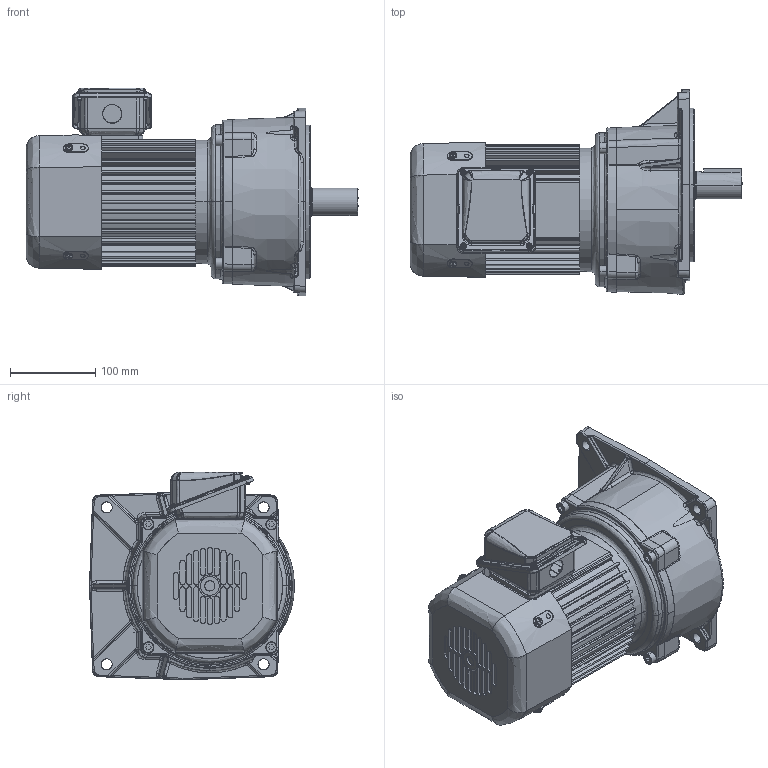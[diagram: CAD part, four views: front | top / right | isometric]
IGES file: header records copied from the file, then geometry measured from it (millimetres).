
Start section: SolidWorks IGES file using analytic representation for surfaces
Global section: file name: \\100.100.100.8\1_共有作業フォルダ\1-5_３Ｄデータ\solidworks\personal-folder\H.Nagayama\SGP1外形075~370\P1(3D)_075~370\igs\TMF2-07-(30~80).IGS; native system: SolidWorks 2018; preprocessor: SolidWorks 2018; author: sigma-giken; date: 200806.151514; units: millimetre
Bounding box: 389 x 240.19 x 243.2 mm (x, y, z)
Surface area: 589322.4 mm2 (no closed solid volume)
Topology: 0 solids, 0 shells, 1592 faces, 19503 edges, 19473 vertices
Faces by surface type: bspline 812, revolution 780
